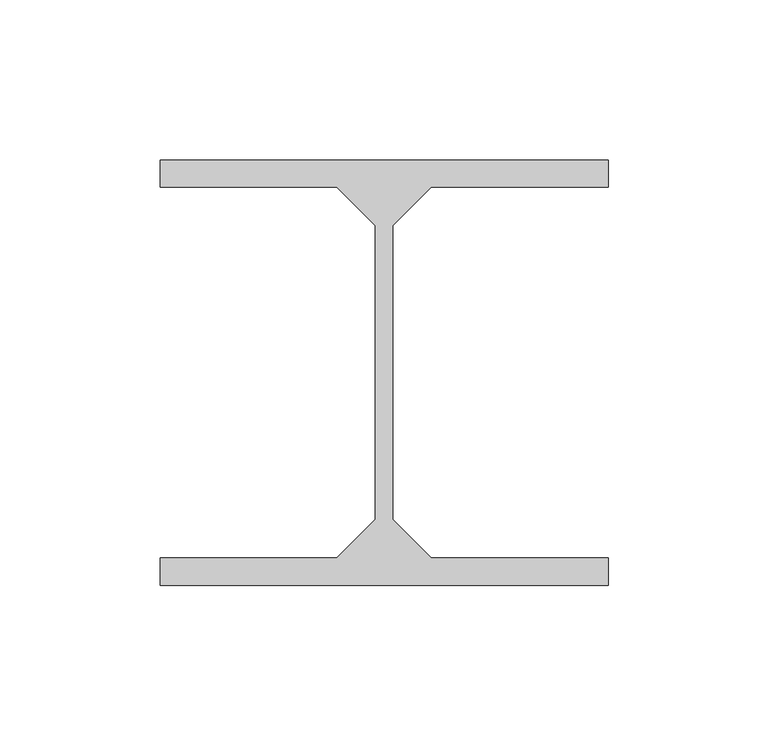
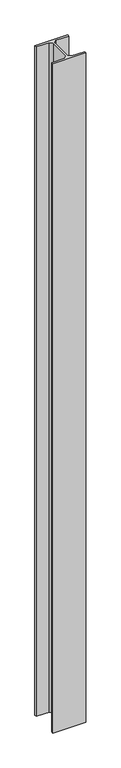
"""IFC4 building model written with IfcOpenShell, lengths in millimetres: beam geometry, Potelet 52470 : Potelet 52470."""

from ifc_helpers import new_model, si_unit, frame, origin, place, context, project, spatial, polyline, outline, extrude, source, transform, mapped, element, save


def beam_2bc91c63(model_context):
    return source(origin(), model_context, "Body", "SweptSolid", [
        extrude(outline(polyline([(15249.9999999, -34342.0), (15249.9999999, -34333.5), (15389.9999999, -34333.5), (15389.9999999, -34342.0), (15334.7499999, -34342.0), (15322.7499999, -34354.0), (15322.7499999, -34446.0), (15334.7499999, -34458.0), (15389.9999999, -34458.0), (15389.9999999, -34466.5), (15249.9999999, -34466.5), (15249.9999999, -34458.0), (15305.2499999, -34458.0), (15317.2499999, -34446.0), (15317.2499999, -34354.0), (15305.2499999, -34342.0), (15249.9999999, -34342.0)])), frame((0.0, 0.0, 7410.0), z_axis=(0.0, 0.0, 1.0), x_axis=(1.0, 0.0, 0.0)), (0.0, 0.0, 1.0), 3012.6213054),
    ])


if __name__ == "__main__":
    model = new_model("IFC4")
    model_context = context("Model", 3, world=origin())
    ifc_project = project(units=[si_unit("LENGTHUNIT", "METRE", prefix="MILLI")], contexts=[model_context])
    site = spatial("IfcSite", under=ifc_project)
    building = spatial("IfcBuilding", under=site)
    placement = place(None, origin())
    beam_shape = beam_2bc91c63(model_context)
    element("IfcBeam", 1, ObjectType="Potelet 52470 : Potelet 52470", at=placement, inside=building, context=model_context, shape_type="MappedRepresentation", body=[
        mapped(beam_shape, transform((0.0, 0.0, 0.0), x_axis=(1.0, 0.0, 0.0), y_axis=(0.0, 1.0, 0.0), z_axis=(0.0, 0.0, 1.0))),
    ])
    save(model, "model.ifc")
